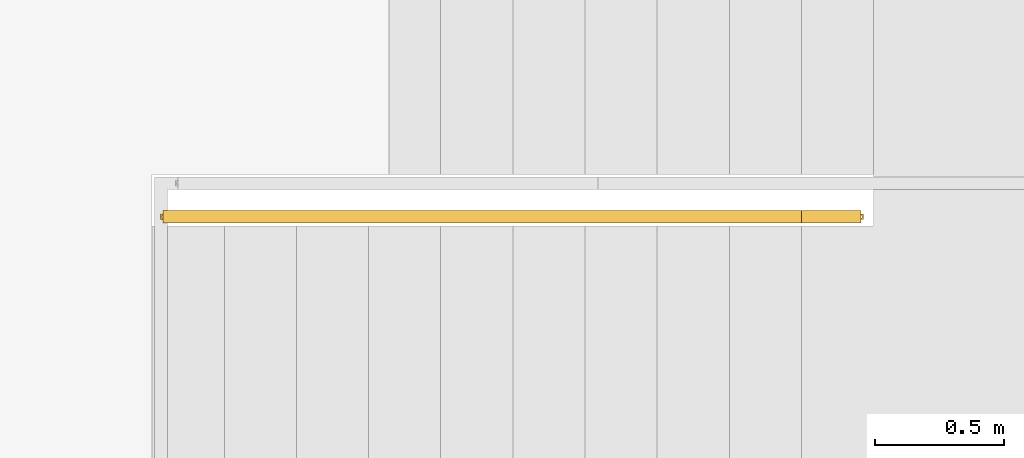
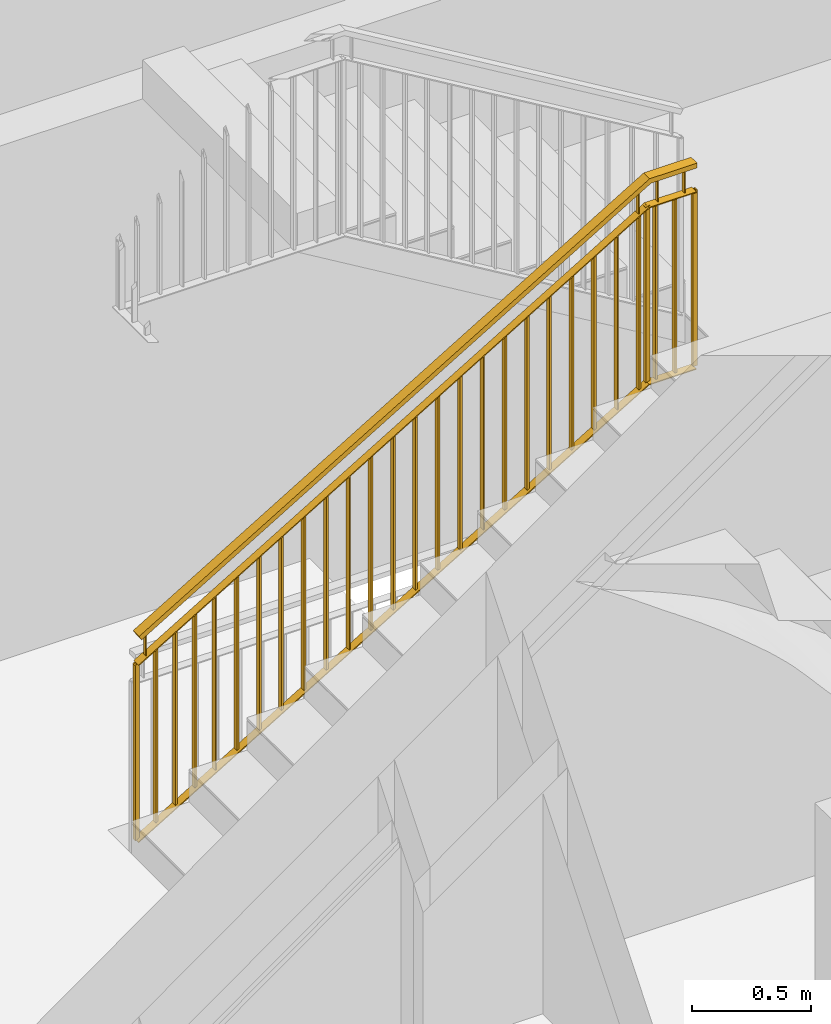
# One storey, part 4 of 61: 1 railing.
"""IFC2X3 building model written with IfcOpenShell, lengths in millimetres."""

import ifcopenshell
import ifcopenshell.guid

model = None  # the IFC model being written
_history = None  # IfcOwnerHistory: only IFC2X3 demands one
_inside = {}  # id of a spatial element -> (the spatial element, [elements in it])
_under = {}  # id of a project, library or spatial element -> (it, [spatial elements below it])
_declared = {}  # id of a project -> (the project, [libraries it declares])
_typed = {}  # id of a type object -> (the type object, [elements of that type])
_made_of = {}  # id of a material, layer set ... -> (it, [elements and type objects made of it])


def new_model(schema):
    """Start an empty IFC model of exactly this schema.

    Asked for "IFC4X3", IfcOpenShell would pick the latest addendum, in which some entities
    have other attributes; the version numbers below select the first issue.
    IFC2X3 requires an IfcOwnerHistory on every rooted entity: one is made here for all.
    """
    global model, _history
    if schema == "IFC4X3":
        model = ifcopenshell.file(schema_version=(4, 3, 0, 0))
    else:
        model = ifcopenshell.file(schema=schema)
    _inside.clear()
    _under.clear()
    _declared.clear()
    _typed.clear()
    _made_of.clear()
    _history = None
    if model.schema == "IFC2X3":
        org = make("IfcOrganization", Name="unknown")
        user = make(
            "IfcPersonAndOrganization",
            ThePerson=make("IfcPerson", FamilyName="unknown"),
            TheOrganization=org,
        )
        app = make(
            "IfcApplication",
            ApplicationDeveloper=org,
            Version="unknown",
            ApplicationFullName="unknown",
            ApplicationIdentifier="unknown",
        )
        _history = make(
            "IfcOwnerHistory",
            OwningUser=user,
            OwningApplication=app,
            ChangeAction="ADDED",
            CreationDate=0,
        )
    return model


def make(cls, **values):
    """One entity of the class cls with the attributes given. An attribute that is None is left unset."""
    return model.create_entity(
        cls, **{name: value for name, value in values.items() if value is not None}
    )


def entity(cls, *values):
    """Any entity or typed value of the class cls, its attributes in the order of the schema. None: left unset."""
    e = model.create_entity(cls)
    for i, value in enumerate(values):
        if value is not None:
            e[i] = value
    return e


def rooted(cls, **values):
    """An entity with a GlobalId (a new one), such as an element, a storey or a relation."""
    return make(cls, GlobalId=ifcopenshell.guid.new(), OwnerHistory=_history, **values)


def si_unit(unit_type, name, prefix=None):
    """IfcSIUnit, for example si_unit("LENGTHUNIT", "METRE", prefix="MILLI")."""
    return make("IfcSIUnit", UnitType=unit_type, Prefix=prefix, Name=name)


def converted_unit(unit_type, name, factor, base, dimensions=None, offset=None):
    """IfcConversionBasedUnit, such as the inch: factor (a typed value) times the base unit."""
    return make(
        "IfcConversionBasedUnit"
        if offset is None
        else "IfcConversionBasedUnitWithOffset",
        ConversionOffset=offset,
        Dimensions=None
        if dimensions is None
        else entity("IfcDimensionalExponents", *dimensions),
        UnitType=unit_type,
        Name=name,
        ConversionFactor=make(
            "IfcMeasureWithUnit", ValueComponent=factor, UnitComponent=base
        ),
    )


def derived_unit(unit_type, elements):
    """IfcDerivedUnit: a product of units, each with its exponent."""
    return make(
        "IfcDerivedUnit",
        Elements=[
            make("IfcDerivedUnitElement", Unit=unit, Exponent=power)
            for unit, power in elements
        ],
        UnitType=unit_type,
    )


def money_unit(currency):
    """IfcMonetaryUnit."""
    return make("IfcMonetaryUnit", Currency=currency)


def assignment(units):
    """IfcUnitAssignment: the units of a project."""
    return None if units is None else make("IfcUnitAssignment", Units=units)


def point(xyz):
    """IfcCartesianPoint."""
    return None if xyz is None else make("IfcCartesianPoint", Coordinates=xyz)


def direction(xyz):
    """IfcDirection."""
    return None if xyz is None else make("IfcDirection", DirectionRatios=xyz)


def frame(location, z_axis=None, x_axis=None):
    """IfcAxis2Placement3D, a coordinate frame: its origin and axes. An axis left out is left unset."""
    return make(
        "IfcAxis2Placement3D",
        Location=point(location),
        Axis=direction(z_axis),
        RefDirection=direction(x_axis),
    )


def origin_with_axes():
    """The frame at (0, 0, 0) with the z axis (0, 0, 1) and the x axis (1, 0, 0) written out."""
    return frame((0.0, 0.0, 0.0), z_axis=(0.0, 0.0, 1.0), x_axis=(1.0, 0.0, 0.0))


def place(relative_to, where):
    """IfcLocalPlacement: puts the frame where relative to a parent placement (None: the world)."""
    return make(
        "IfcLocalPlacement", PlacementRelTo=relative_to, RelativePlacement=where
    )


def context(
    kind, dimensions, precision=None, world=None, true_north=None, identifier=None
):
    """IfcGeometricRepresentationContext, for example the 3D "Model" context."""
    return make(
        "IfcGeometricRepresentationContext",
        ContextIdentifier=identifier,
        ContextType=kind,
        CoordinateSpaceDimension=dimensions,
        Precision=precision,
        WorldCoordinateSystem=world,
        TrueNorth=true_north,
    )


def subcontext(parent, identifier, kind, view, scale=None):
    """IfcGeometricRepresentationSubContext, for example "Body" below "Model"."""
    return make(
        "IfcGeometricRepresentationSubContext",
        ContextIdentifier=identifier,
        ContextType=kind,
        ParentContext=parent,
        TargetScale=scale,
        TargetView=view,
    )


def project(units=None, contexts=None):
    """IfcProject with its units and contexts."""
    return rooted(
        "IfcProject",
        Name="project",
        RepresentationContexts=contexts,
        UnitsInContext=assignment(units),
    )


def spatial(cls, under=None, at=None, **own):
    """A site, building, storey or space (cls), placed at a placement, below another one or the project."""
    s = rooted(cls, ObjectPlacement=at, **own)
    if under is not None:
        _under.setdefault(under.id(), (under, []))[1].append(s)
    return s


def faces_of(points, faces, orient=None, outer=None):
    """IfcFace entities. A face is a list of loops; a loop is a list of indices into points, from 0.

    orient and outer hold one flag for each loop. By default every Orientation is true, the
    first loop of a face is its IfcFaceOuterBound and the others are IfcFaceBound.
    """
    made = []
    for i, loops in enumerate(faces):
        bounds = []
        for j, loop in enumerate(loops):
            is_outer = j == 0 if outer is None else outer[i][j]
            bounds.append(
                make(
                    "IfcFaceOuterBound" if is_outer else "IfcFaceBound",
                    Bound=make("IfcPolyLoop", Polygon=[points[k] for k in loop]),
                    Orientation=True if orient is None else orient[i][j],
                )
            )
        made.append(make("IfcFace", Bounds=bounds))
    return made


def faceted_brep(points, faces, orient=None, outer=None, voids=None):
    """IfcFacetedBrep: a solid bounded by flat faces; with voids (closed shells), ...WithVoids."""
    shared = [point(p) for p in points]
    hull = make("IfcClosedShell", CfsFaces=faces_of(shared, faces, orient, outer))
    if voids is None:
        return make("IfcFacetedBrep", Outer=hull)
    return make(
        "IfcFacetedBrepWithVoids",
        Outer=hull,
        Voids=[
            make(cls, CfsFaces=faces_of(shared, fs, o, b)) for cls, fs, o, b in voids
        ],
    )


def shape(context_of_items, identifier, shape_type, items):
    """IfcShapeRepresentation: the items that make up one representation, for example the "Body"."""
    return make(
        "IfcShapeRepresentation",
        ContextOfItems=context_of_items,
        RepresentationIdentifier=identifier,
        RepresentationType=shape_type,
        Items=items,
    )


def material(Name=None, Category=None):
    """IfcMaterial."""
    return make("IfcMaterial", Name=Name, Category=Category)


def material_list(materials):
    """IfcMaterialList."""
    return make("IfcMaterialList", Materials=materials)


def made_of(thing, what):
    """Note that an element or type object is made of a material, layer set ...; save() writes the relation."""
    if what is not None:
        _made_of.setdefault(what.id(), (what, []))[1].append(thing)
    return thing


def type_object(cls, material=None, **own):
    """A type object (cls), such as IfcWallType, which elements share."""
    return made_of(rooted(cls, **own), material)


def element(
    cls,
    number,
    at=None,
    inside=None,
    cuts=None,
    type_object=None,
    material=None,
    context=None,
    identifier="Body",
    shape_type=None,
    held_by="IfcProductDefinitionShape",
    body=None,
    shapes=None,
    **own,
):
    """One element of the class cls, such as IfcWall. Its Tag is "e" and its number.

    at: its placement. inside: the storey or other place that contains it. cuts: it is an
    opening in that element (IfcRelVoidsElement). A single representation is given by context,
    identifier, shape_type and body (its items); several are given by shapes. held_by: the class
    of the entity that holds the representations. save() writes the other relations.
    """
    e = rooted(cls, Tag="e%d" % number, ObjectPlacement=at, **own)
    if body is not None:
        shapes = [shape(context, identifier, shape_type, body)]
    if shapes is not None:
        e.Representation = make(held_by, Representations=shapes)
    if inside is not None:
        _inside.setdefault(inside.id(), (inside, []))[1].append(e)
    if cuts is not None:
        rooted(
            "IfcRelVoidsElement", RelatingBuildingElement=cuts, RelatedOpeningElement=e
        )
    if type_object is not None:
        _typed.setdefault(type_object.id(), (type_object, []))[1].append(e)
    return made_of(e, material)


def aggregate(whole, parts):
    """IfcRelAggregates: a whole, such as a stair, and the parts it consists of."""
    return rooted("IfcRelAggregates", RelatingObject=whole, RelatedObjects=parts)


def save(model, path):
    """Write the relations noted so far, then the file.

    IfcRelAggregates (storeys below a building ...), IfcRelContainedInSpatialStructure (elements
    in a storey), IfcRelDefinesByType, IfcRelAssociatesMaterial and IfcRelDeclares: one each for
    every whole, place, type object, material and project.
    """
    for whole, parts in _under.values():
        aggregate(whole, parts)
    for where, things in _inside.values():
        rooted(
            "IfcRelContainedInSpatialStructure",
            RelatedElements=things,
            RelatingStructure=where,
        )
    for kind, things in _typed.values():
        rooted("IfcRelDefinesByType", RelatedObjects=things, RelatingType=kind)
    for what, things in _made_of.values():
        rooted("IfcRelAssociatesMaterial", RelatedObjects=things, RelatingMaterial=what)
    for by, libraries in _declared.values():
        rooted("IfcRelDeclares", RelatingContext=by, RelatedDefinitions=libraries)
    model.write(path)


model = new_model("IFC2X3")

# Units and contexts
model_context = context("Model", 3, precision=0.01, world=origin_with_axes(), true_north=direction((0.34421633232, 0.938890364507)))
body_context = subcontext(model_context, "Body", "Model", "MODEL_VIEW")
ifc_project = project(units=[si_unit("LENGTHUNIT", "METRE", prefix="MILLI"), si_unit("AREAUNIT", "SQUARE_METRE"), si_unit("VOLUMEUNIT", "CUBIC_METRE"), converted_unit("PLANEANGLEUNIT", "DEGREE", entity("IfcPlaneAngleMeasure", 0.0174532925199), si_unit("PLANEANGLEUNIT", "RADIAN"), dimensions=[0, 0, 0, 0, 0, 0, 0]), si_unit("SOLIDANGLEUNIT", "STERADIAN"), money_unit("USD"), converted_unit("TIMEUNIT", "Year", entity("IfcTimeMeasure", 31556926.0), si_unit("TIMEUNIT", "SECOND"), dimensions=[0, 0, 1, 0, 0, 0, 0]), si_unit("MASSUNIT", "GRAM", prefix="KILO"), si_unit("THERMODYNAMICTEMPERATUREUNIT", "DEGREE_CELSIUS"), si_unit("LUMINOUSINTENSITYUNIT", "LUMEN"), si_unit("ENERGYUNIT", "JOULE", prefix="MEGA"), derived_unit("THERMALCONDUCTANCEUNIT", [(si_unit("POWERUNIT", "WATT"), 1), (si_unit("LENGTHUNIT", "METRE"), -1), (si_unit("THERMODYNAMICTEMPERATUREUNIT", "KELVIN"), -1)]), derived_unit("SPECIFICHEATCAPACITYUNIT", [(si_unit("ENERGYUNIT", "JOULE"), 1), (si_unit("MASSUNIT", "GRAM", prefix="KILO"), -1), (si_unit("THERMODYNAMICTEMPERATUREUNIT", "KELVIN"), -1)]), derived_unit("MASSDENSITYUNIT", [(si_unit("MASSUNIT", "GRAM", prefix="KILO"), 1), (si_unit("VOLUMEUNIT", "CUBIC_METRE"), -1)])], contexts=[model_context])

# Site, building, storey
site_placement = place(None, origin_with_axes())
site = spatial("IfcSite", under=ifc_project, at=site_placement, Name="USTRONIE MORSKIE", CompositionType="ELEMENT")
building_placement = place(site_placement, origin_with_axes())
building = spatial("IfcBuilding", under=site, at=building_placement, Name="Budynek", CompositionType="ELEMENT")
storey_placement = place(building_placement, frame((0.0, 0.0, 13000.0), z_axis=(0.0, 0.0, 1.0), x_axis=(1.0, 0.0, 0.0)))
storey = spatial("IfcBuildingStorey", under=building, at=storey_placement, Name="PIĘTRO 4", CompositionType="ELEMENT", Elevation=13000.0)

# Railing
ifc_material_1 = material(Name="Stal konstrukcyjna")
ifc_material_2 = material(Name="Stal nierdzewna")
ifc_material_list = material_list([ifc_material_1, ifc_material_1, ifc_material_1, ifc_material_2, ifc_material_2, ifc_material_2, ifc_material_1, ifc_material_1, ifc_material_2, ifc_material_2, ifc_material_2, ifc_material_1, ifc_material_1, ifc_material_1, ifc_material_1, ifc_material_1, ifc_material_1, ifc_material_1, ifc_material_1, ifc_material_1, ifc_material_1, ifc_material_1, ifc_material_1, ifc_material_1, ifc_material_1, ifc_material_1, ifc_material_1, ifc_material_1, ifc_material_1, ifc_material_1, ifc_material_1, ifc_material_1, ifc_material_1, ifc_material_1])
railing_type = type_object("IfcRailingType", Name="Typ balustrady", PredefinedType="NOTDEFINED")
railing_placement = place(storey_placement, frame((364247.920919, 728301.199022, 193.0047645), z_axis=(0.0, 0.0, 1.0), x_axis=(1.0, 0.0, 0.0)))
element("IfcRailing", 1, at=railing_placement, inside=storey, type_object=railing_type, material=ifc_material_list, Name="BL1", PredefinedType="NOTDEFINED", context=body_context, shape_type="Brep", body=[
    faceted_brep([(-60.0, 44.9999999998, 1330.52464727), (-60.0, 24.9999999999, 1330.52464727), (-60.0, 24.9999999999, 2230.52464727), (-60.0, 44.9999999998, 2230.52464727), (-40.0, 44.9999999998, 1330.52464727), (-40.0, 24.9999999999, 1330.52464727), (-55.0, 39.9999999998, 1330.52464727), (-55.0, 29.9999999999, 1330.52464727), (-45.0, 29.9999999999, 1330.52464727), (-45.0, 39.9999999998, 1330.52464727), (-40.0, 24.9999999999, 2230.52464727), (-40.0, 44.9999999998, 2230.52464727), (-55.0, 39.9999999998, 2230.52464727), (-45.0, 39.9999999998, 2230.52464727), (-45.0, 29.9999999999, 2230.52464727), (-55.0, 29.9999999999, 2230.52464727)], [[[0, 1, 2, 3]], [[0, 4, 5, 1], [6, 7, 8, 9]], [[1, 5, 10, 2]], [[3, 2, 10, 11], [12, 13, 14, 15]], [[4, 0, 3, 11]], [[5, 4, 11, 10]], [[7, 6, 12, 15]], [[8, 7, 15, 14]], [[9, 8, 14, 13]], [[6, 9, 13, 12]]]),
    faceted_brep([(-290.0, 45.0, 1327.76396265), (-290.0, 25.0, 1327.76396265), (-290.0, 25.0, 2227.76396265), (-290.0, 45.0, 2227.76396265), (-270.0, 45.0, 1333.28533188), (-270.0, 25.0, 1333.28533188), (-285.0, 40.0, 1329.14430496), (-285.0, 30.0, 1329.14430496), (-275.0, 30.0, 1331.90498957), (-275.0, 40.0, 1331.90498957), (-270.0, 25.0, 2233.28533188), (-270.0, 45.0, 2233.28533188), (-285.0, 40.0, 2229.14430496), (-275.0, 40.0, 2231.90498957), (-275.0, 30.0, 2231.90498957), (-285.0, 30.0, 2229.14430496)], [[[0, 1, 2, 3]], [[0, 4, 5, 1], [6, 7, 8, 9]], [[1, 5, 10, 2]], [[3, 2, 10, 11], [12, 13, 14, 15]], [[4, 0, 3, 11]], [[5, 4, 11, 10]], [[7, 6, 12, 15]], [[8, 7, 15, 14]], [[9, 8, 14, 13]], [[6, 9, 13, 12]]]),
    faceted_brep([(-2767.0816594, 45.0000000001, -155.976890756), (-2767.0816594, 25.0000000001, -155.976890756), (-2767.0816594, 25.0000000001, 744.023109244), (-2767.0816594, 45.0000000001, 744.023109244), (-2747.0816594, 45.0000000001, -144.023109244), (-2747.0816594, 25.0000000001, -144.023109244), (-2762.0816594, 40.0000000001, -152.988445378), (-2762.0816594, 30.0000000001, -152.988445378), (-2752.0816594, 30.0000000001, -147.011554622), (-2752.0816594, 40.0000000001, -147.011554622), (-2747.0816594, 25.0000000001, 755.976890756), (-2747.0816594, 45.0000000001, 755.976890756), (-2762.0816594, 40.0000000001, 747.011554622), (-2752.0816594, 40.0000000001, 752.988445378), (-2752.0816594, 30.0000000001, 752.988445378), (-2762.0816594, 30.0000000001, 747.011554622)], [[[0, 1, 2, 3]], [[0, 4, 5, 1], [6, 7, 8, 9]], [[1, 5, 10, 2]], [[3, 2, 10, 11], [12, 13, 14, 15]], [[4, 0, 3, 11]], [[5, 4, 11, 10]], [[7, 6, 12, 15]], [[8, 7, 15, 14]], [[9, 8, 14, 13]], [[6, 9, 13, 12]]]),
    faceted_brep([(-50.0, 59.9999999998, 2380.52464727), (-50.0, 59.9999999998, 2355.52464727), (-273.098288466, 59.9999999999, 2355.52464727), (-280.0, 59.9999999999, 2380.52464727), (-50.0, 9.99999999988, 2380.52464727), (-50.0, 9.99999999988, 2355.52464727), (-50.0, 24.9999999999, 2355.52464727), (-50.0, 24.9999999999, 2360.52464727), (-50.0, 44.9999999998, 2360.52464727), (-50.0, 44.9999999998, 2355.52464727), (-273.098288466, 45.0, 2355.52464727), (-274.478630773, 45.0, 2360.52464727), (-274.478630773, 25.0, 2360.52464727), (-273.098288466, 25.0, 2355.52464727), (-273.098288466, 9.99999999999, 2355.52464727), (-280.0, 9.99999999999, 2380.52464727)], [[[0, 1, 2, 3]], [[0, 4, 5, 6, 7, 8, 9, 1]], [[1, 9, 10, 2]], [[3, 2, 10, 11, 12, 13, 14, 15]], [[4, 0, 3, 15]], [[5, 4, 15, 14]], [[6, 5, 14, 13]], [[7, 6, 13, 12]], [[8, 7, 12, 11]], [[9, 8, 11, 10]]]),
    faceted_brep([(-50.0, 44.9999999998, 2355.52464727), (-50.0, 24.9999999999, 2355.52464727), (-273.098288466, 25.0, 2355.52464727), (-273.098288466, 45.0, 2355.52464727), (-50.0, 44.9999999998, 2360.52464727), (-50.0, 24.9999999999, 2360.52464727), (-274.478630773, 25.0, 2360.52464727), (-274.478630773, 45.0, 2360.52464727)], [[[0, 1, 2, 3]], [[0, 4, 5, 1]], [[1, 5, 6, 2]], [[3, 2, 6, 7]], [[4, 0, 3, 7]], [[5, 4, 7, 6]]]),
    faceted_brep([(-102.5, 44.9999999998, 2235.52464727), (-102.5, 24.9999999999, 2235.52464727), (-102.5, 24.9999999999, 2355.52464727), (-102.5, 44.9999999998, 2355.52464727), (-97.5, 44.9999999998, 2235.52464727), (-97.5, 24.9999999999, 2235.52464727), (-97.5, 24.9999999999, 2355.52464727), (-97.5, 44.9999999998, 2355.52464727)], [[[0, 1, 2, 3]], [[0, 4, 5, 1]], [[1, 5, 6, 2]], [[3, 2, 6, 7]], [[4, 0, 3, 7]], [[5, 4, 7, 6]]]),
    faceted_brep([(-232.5, 45.0, 2235.52464727), (-232.5, 25.0, 2235.52464727), (-232.5, 25.0, 2355.52464727), (-232.5, 45.0, 2355.52464727), (-227.5, 45.0, 2235.52464727), (-227.5, 25.0, 2235.52464727), (-227.5, 25.0, 2355.52464727), (-227.5, 45.0, 2355.52464727)], [[[0, 1, 2, 3]], [[0, 4, 5, 1]], [[1, 5, 6, 2]], [[3, 2, 6, 7]], [[4, 0, 3, 7]], [[5, 4, 7, 6]]]),
    faceted_brep([(-50.0, 54.9999999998, 2230.52464727), (-50.0, 54.9999999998, 2225.52464727), (-278.619657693, 54.9999999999, 2225.52464727), (-280.0, 54.9999999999, 2230.52464727), (-50.0, 14.9999999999, 2230.52464727), (-50.0, 14.9999999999, 2225.52464727), (-278.619657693, 15.0, 2225.52464727), (-280.0, 15.0, 2230.52464727)], [[[0, 1, 2, 3]], [[0, 4, 5, 1]], [[1, 5, 6, 2]], [[3, 2, 6, 7]], [[4, 0, 3, 7]], [[5, 4, 7, 6]]]),
    faceted_brep([(-50.0, 54.9999999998, 1323.02464727), (-50.0, 54.9999999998, 1318.02464727), (-279.309828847, 54.9999999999, 1318.02464727), (-280.690171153, 54.9999999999, 1323.02464727), (-50.0, 14.9999999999, 1323.02464727), (-50.0, 14.9999999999, 1318.02464727), (-279.309828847, 15.0, 1318.02464727), (-280.690171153, 15.0, 1323.02464727)], [[[0, 1, 2, 3]], [[0, 4, 5, 1]], [[1, 5, 6, 2]], [[3, 2, 6, 7]], [[4, 0, 3, 7]], [[5, 4, 7, 6]]]),
    faceted_brep([(-149.635207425, 47.4999999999, 1330.52464727), (-149.635207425, 22.4999999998, 1330.52464727), (-149.635207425, 22.4999999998, 2220.52464727), (-149.635207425, 47.4999999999, 2220.52464727), (-139.635207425, 47.4999999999, 1330.52464727), (-139.635207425, 22.4999999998, 1330.52464727), (-139.635207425, 22.4999999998, 2220.52464727), (-139.635207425, 47.4999999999, 2220.52464727)], [[[0, 1, 2, 3]], [[0, 4, 5, 1]], [[1, 5, 6, 2]], [[3, 2, 6, 7]], [[4, 0, 3, 7]], [[5, 4, 7, 6]]]),
    faceted_brep([(-244.270414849, 47.5, 1330.52464727), (-244.270414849, 22.4999999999, 1330.52464727), (-244.270414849, 22.4999999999, 2220.52464727), (-244.270414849, 47.5, 2220.52464727), (-234.270414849, 47.5, 1330.52464727), (-234.270414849, 22.4999999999, 1330.52464727), (-234.270414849, 22.4999999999, 2220.52464727), (-234.270414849, 47.5, 2220.52464727)], [[[0, 1, 2, 3]], [[0, 4, 5, 1]], [[1, 5, 6, 2]], [[3, 2, 6, 7]], [[4, 0, 3, 7]], [[5, 4, 7, 6]]]),
    faceted_brep([(-280.0, 59.9999999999, 2380.52464727), (-273.098288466, 59.9999999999, 2355.52464727), (-2744.25574773, 60.0000000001, 878.540829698), (-2757.0816594, 60.0000000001, 900.0), (-280.0, 9.99999999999, 2380.52464727), (-273.098288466, 9.99999999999, 2355.52464727), (-273.098288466, 25.0, 2355.52464727), (-274.478630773, 25.0, 2360.52464727), (-274.478630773, 45.0, 2360.52464727), (-273.098288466, 45.0, 2355.52464727), (-2744.25574773, 45.0000000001, 878.540829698), (-2746.82093007, 45.0000000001, 882.832663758), (-2746.82093007, 25.0000000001, 882.832663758), (-2744.25574773, 25.0000000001, 878.540829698), (-2744.25574773, 10.0000000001, 878.540829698), (-2757.0816594, 10.0000000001, 900.0)], [[[0, 1, 2, 3]], [[0, 4, 5, 6, 7, 8, 9, 1]], [[1, 9, 10, 2]], [[3, 2, 10, 11, 12, 13, 14, 15]], [[4, 0, 3, 15]], [[5, 4, 15, 14]], [[6, 5, 14, 13]], [[7, 6, 13, 12]], [[8, 7, 12, 11]], [[9, 8, 11, 10]]]),
    faceted_brep([(-273.098288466, 45.0, 2355.52464727), (-273.098288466, 25.0, 2355.52464727), (-2744.25574773, 25.0000000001, 878.540829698), (-2744.25574773, 45.0000000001, 878.540829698), (-274.478630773, 45.0, 2360.52464727), (-274.478630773, 25.0, 2360.52464727), (-2746.82093007, 25.0000000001, 882.832663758), (-2746.82093007, 45.0000000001, 882.832663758)], [[[0, 1, 2, 3]], [[0, 4, 5, 1]], [[1, 5, 6, 2]], [[3, 2, 6, 7]], [[4, 0, 3, 7]], [[5, 4, 7, 6]]]),
    faceted_brep([(-325.418340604, 45.0, 2205.74774635), (-325.418340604, 25.0, 2205.74774635), (-325.418340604, 25.0, 2325.74774635), (-325.418340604, 45.0, 2325.74774635), (-320.418340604, 45.0, 2205.74774635), (-320.418340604, 25.0, 2205.74774635), (-320.418340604, 25.0, 2327.24196904), (-322.918340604, 25.0, 2327.24196904), (-322.918340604, 45.0, 2327.24196904), (-320.418340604, 45.0, 2327.24196904)], [[[0, 1, 2, 3]], [[0, 4, 5, 1]], [[1, 5, 6, 7, 2]], [[7, 8, 3, 2]], [[4, 0, 3, 8, 9]], [[5, 4, 9, 6]], [[7, 6, 9, 8]]]),
    faceted_brep([(-2716.66331879, 45.0000000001, 776.526745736), (-2716.66331879, 25.0000000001, 776.526745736), (-2716.66331879, 25.0000000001, 896.526745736), (-2716.66331879, 45.0000000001, 896.526745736), (-2711.66331879, 45.0000000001, 776.526745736), (-2711.66331879, 25.0000000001, 776.526745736), (-2711.66331879, 25.0000000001, 898.020968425), (-2714.16331879, 25.0000000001, 898.020968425), (-2714.16331879, 45.0000000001, 898.020968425), (-2711.66331879, 45.0000000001, 898.020968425)], [[[0, 1, 2, 3]], [[0, 4, 5, 1]], [[1, 5, 6, 7, 2]], [[7, 8, 3, 2]], [[4, 0, 3, 8, 9]], [[5, 4, 9, 6]], [[7, 6, 9, 8]]]),
    faceted_brep([(-280.0, 54.9999999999, 2230.52464727), (-278.619657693, 54.9999999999, 2225.52464727), (-2754.51647706, 55.0000000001, 745.70816594), (-2757.0816594, 55.0000000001, 750.0), (-280.0, 15.0, 2230.52464727), (-278.619657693, 15.0, 2225.52464727), (-2754.51647706, 15.0000000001, 745.70816594), (-2757.0816594, 15.0000000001, 750.0)], [[[0, 1, 2, 3]], [[0, 4, 5, 1]], [[1, 5, 6, 2]], [[3, 2, 6, 7]], [[4, 0, 3, 7]], [[5, 4, 7, 6]]]),
    faceted_brep([(-280.690171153, 54.9999999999, 1323.02464727), (-279.309828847, 54.9999999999, 1318.02464727), (-2755.79906823, 55.0000000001, -162.14591703), (-2758.36425056, 55.0000000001, -157.85408297), (-280.690171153, 15.0, 1323.02464727), (-279.309828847, 15.0, 1318.02464727), (-2755.79906823, 15.0000000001, -162.14591703), (-2758.36425056, 15.0000000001, -157.85408297)], [[[0, 1, 2, 3]], [[0, 4, 5, 1]], [[1, 5, 6, 2]], [[3, 2, 6, 7]], [[4, 0, 3, 7]], [[5, 4, 7, 6]]]),
    faceted_brep([(-325.207496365, 47.5, 1303.50462055), (-325.207496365, 22.4999999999, 1303.50462055), (-325.207496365, 22.4999999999, 2193.50462055), (-325.207496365, 47.5, 2193.50462055), (-315.207496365, 47.5, 1309.48151131), (-315.207496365, 22.4999999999, 1309.48151131), (-315.207496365, 22.4999999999, 2199.48151131), (-315.207496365, 47.5, 2199.48151131)], [[[0, 1, 2, 3]], [[0, 4, 5, 1]], [[1, 5, 6, 2]], [[3, 2, 6, 7]], [[4, 0, 3, 7]], [[5, 4, 7, 6]]]),
    faceted_brep([(-431.040829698, 50.0, 1240.24919338), (-431.040829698, 20.0, 1240.24919338), (-431.040829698, 20.0, 2130.24919338), (-431.040829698, 50.0, 2130.24919338), (-426.040829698, 50.0, 1243.23763876), (-426.040829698, 20.0, 1243.23763876), (-426.040829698, 20.0, 2133.23763876), (-426.040829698, 50.0, 2133.23763876)], [[[0, 1, 2, 3]], [[0, 4, 5, 1]], [[1, 5, 6, 2]], [[3, 2, 6, 7]], [[4, 0, 3, 7]], [[5, 4, 7, 6]]]),
    faceted_brep([(-541.874163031, 47.5, 1174.00532083), (-541.874163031, 22.4999999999, 1174.00532083), (-541.874163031, 22.4999999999, 2064.00532083), (-541.874163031, 47.5, 2064.00532083), (-531.874163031, 47.5, 1179.98221159), (-531.874163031, 22.4999999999, 1179.98221159), (-531.874163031, 22.4999999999, 2069.98221159), (-531.874163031, 47.5, 2069.98221159)], [[[0, 1, 2, 3]], [[0, 4, 5, 1]], [[1, 5, 6, 2]], [[3, 2, 6, 7]], [[4, 0, 3, 7]], [[5, 4, 7, 6]]]),
    faceted_brep([(-650.207496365, 47.5, 1109.25567097), (-650.207496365, 22.4999999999, 1109.25567097), (-650.207496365, 22.4999999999, 1999.25567097), (-650.207496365, 47.5, 1999.25567097), (-640.207496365, 47.5, 1115.23256173), (-640.207496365, 22.4999999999, 1115.23256173), (-640.207496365, 22.4999999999, 2005.23256173), (-640.207496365, 47.5, 2005.23256173)], [[[0, 1, 2, 3]], [[0, 4, 5, 1]], [[1, 5, 6, 2]], [[3, 2, 6, 7]], [[4, 0, 3, 7]], [[5, 4, 7, 6]]]),
    faceted_brep([(-758.540829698, 47.5, 1044.50602111), (-758.540829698, 22.4999999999, 1044.50602111), (-758.540829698, 22.4999999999, 1934.50602111), (-758.540829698, 47.5, 1934.50602111), (-748.540829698, 47.5, 1050.48291187), (-748.540829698, 22.4999999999, 1050.48291187), (-748.540829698, 22.4999999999, 1940.48291187), (-748.540829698, 47.5, 1940.48291187)], [[[0, 1, 2, 3]], [[0, 4, 5, 1]], [[1, 5, 6, 2]], [[3, 2, 6, 7]], [[4, 0, 3, 7]], [[5, 4, 7, 6]]]),
    faceted_brep([(-866.874163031, 47.5, 979.756371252), (-866.874163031, 22.4999999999, 979.756371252), (-866.874163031, 22.4999999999, 1869.75637125), (-866.874163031, 47.5, 1869.75637125), (-856.874163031, 47.5, 985.733262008), (-856.874163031, 22.4999999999, 985.733262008), (-856.874163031, 22.4999999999, 1875.73326201), (-856.874163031, 47.5, 1875.73326201)], [[[0, 1, 2, 3]], [[0, 4, 5, 1]], [[1, 5, 6, 2]], [[3, 2, 6, 7]], [[4, 0, 3, 7]], [[5, 4, 7, 6]]]),
    faceted_brep([(-975.207496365, 47.5, 915.006721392), (-975.207496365, 22.4999999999, 915.006721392), (-975.207496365, 22.4999999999, 1805.00672139), (-975.207496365, 47.5, 1805.00672139), (-965.207496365, 47.5, 920.983612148), (-965.207496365, 22.4999999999, 920.983612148), (-965.207496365, 22.4999999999, 1810.98361215), (-965.207496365, 47.5, 1810.98361215)], [[[0, 1, 2, 3]], [[0, 4, 5, 1]], [[1, 5, 6, 2]], [[3, 2, 6, 7]], [[4, 0, 3, 7]], [[5, 4, 7, 6]]]),
    faceted_brep([(-1081.0408297, 50.0, 851.751294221), (-1081.0408297, 20.0, 851.751294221), (-1081.0408297, 20.0, 1741.75129422), (-1081.0408297, 50.0, 1741.75129422), (-1076.0408297, 50.0, 854.739739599), (-1076.0408297, 20.0, 854.739739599), (-1076.0408297, 20.0, 1744.7397396), (-1076.0408297, 50.0, 1744.7397396)], [[[0, 1, 2, 3]], [[0, 4, 5, 1]], [[1, 5, 6, 2]], [[3, 2, 6, 7]], [[4, 0, 3, 7]], [[5, 4, 7, 6]]]),
    faceted_brep([(-1191.87416303, 47.5, 785.507421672), (-1191.87416303, 22.4999999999, 785.507421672), (-1191.87416303, 22.4999999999, 1675.50742167), (-1191.87416303, 47.5, 1675.50742167), (-1181.87416303, 47.5, 791.484312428), (-1181.87416303, 22.4999999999, 791.484312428), (-1181.87416303, 22.4999999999, 1681.48431243), (-1181.87416303, 47.5, 1681.48431243)], [[[0, 1, 2, 3]], [[0, 4, 5, 1]], [[1, 5, 6, 2]], [[3, 2, 6, 7]], [[4, 0, 3, 7]], [[5, 4, 7, 6]]]),
    faceted_brep([(-1300.20749636, 47.5, 720.757771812), (-1300.20749636, 22.4999999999, 720.757771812), (-1300.20749636, 22.4999999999, 1610.75777181), (-1300.20749636, 47.5, 1610.75777181), (-1290.20749636, 47.5, 726.734662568), (-1290.20749636, 22.4999999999, 726.734662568), (-1290.20749636, 22.4999999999, 1616.73466257), (-1290.20749636, 47.5, 1616.73466257)], [[[0, 1, 2, 3]], [[0, 4, 5, 1]], [[1, 5, 6, 2]], [[3, 2, 6, 7]], [[4, 0, 3, 7]], [[5, 4, 7, 6]]]),
    faceted_brep([(-1408.5408297, 47.5, 656.008121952), (-1408.5408297, 22.4999999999, 656.008121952), (-1408.5408297, 22.4999999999, 1546.00812195), (-1408.5408297, 47.5, 1546.00812195), (-1398.5408297, 47.5, 661.985012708), (-1398.5408297, 22.4999999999, 661.985012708), (-1398.5408297, 22.4999999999, 1551.98501271), (-1398.5408297, 47.5, 1551.98501271)], [[[0, 1, 2, 3]], [[0, 4, 5, 1]], [[1, 5, 6, 2]], [[3, 2, 6, 7]], [[4, 0, 3, 7]], [[5, 4, 7, 6]]]),
    faceted_brep([(-1516.87416303, 47.5, 591.258472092), (-1516.87416303, 22.4999999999, 591.258472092), (-1516.87416303, 22.4999999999, 1481.25847209), (-1516.87416303, 47.5, 1481.25847209), (-1506.87416303, 47.5, 597.235362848), (-1506.87416303, 22.4999999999, 597.235362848), (-1506.87416303, 22.4999999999, 1487.23536285), (-1506.87416303, 47.5, 1487.23536285)], [[[0, 1, 2, 3]], [[0, 4, 5, 1]], [[1, 5, 6, 2]], [[3, 2, 6, 7]], [[4, 0, 3, 7]], [[5, 4, 7, 6]]]),
    faceted_brep([(-1625.20749636, 47.5000000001, 526.508822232), (-1625.20749636, 22.5, 526.508822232), (-1625.20749636, 22.5, 1416.50882223), (-1625.20749636, 47.5000000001, 1416.50882223), (-1615.20749636, 47.5000000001, 532.485712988), (-1615.20749636, 22.5, 532.485712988), (-1615.20749636, 22.5, 1422.48571299), (-1615.20749636, 47.5000000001, 1422.48571299)], [[[0, 1, 2, 3]], [[0, 4, 5, 1]], [[1, 5, 6, 2]], [[3, 2, 6, 7]], [[4, 0, 3, 7]], [[5, 4, 7, 6]]]),
    faceted_brep([(-1731.0408297, 50.0000000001, 463.253395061), (-1731.0408297, 20.0000000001, 463.253395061), (-1731.0408297, 20.0000000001, 1353.25339506), (-1731.0408297, 50.0000000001, 1353.25339506), (-1726.0408297, 50.0000000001, 466.241840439), (-1726.0408297, 20.0000000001, 466.241840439), (-1726.0408297, 20.0000000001, 1356.24184044), (-1726.0408297, 50.0000000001, 1356.24184044)], [[[0, 1, 2, 3]], [[0, 4, 5, 1]], [[1, 5, 6, 2]], [[3, 2, 6, 7]], [[4, 0, 3, 7]], [[5, 4, 7, 6]]]),
    faceted_brep([(-1841.87416303, 47.5000000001, 397.009522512), (-1841.87416303, 22.5, 397.009522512), (-1841.87416303, 22.5, 1287.00952251), (-1841.87416303, 47.5000000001, 1287.00952251), (-1831.87416303, 47.5000000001, 402.986413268), (-1831.87416303, 22.5, 402.986413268), (-1831.87416303, 22.5, 1292.98641327), (-1831.87416303, 47.5000000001, 1292.98641327)], [[[0, 1, 2, 3]], [[0, 4, 5, 1]], [[1, 5, 6, 2]], [[3, 2, 6, 7]], [[4, 0, 3, 7]], [[5, 4, 7, 6]]]),
    faceted_brep([(-1950.20749636, 47.5000000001, 332.259872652), (-1950.20749636, 22.5, 332.259872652), (-1950.20749636, 22.5, 1222.25987265), (-1950.20749636, 47.5000000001, 1222.25987265), (-1940.20749636, 47.5000000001, 338.236763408), (-1940.20749636, 22.5, 338.236763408), (-1940.20749636, 22.5, 1228.23676341), (-1940.20749636, 47.5000000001, 1228.23676341)], [[[0, 1, 2, 3]], [[0, 4, 5, 1]], [[1, 5, 6, 2]], [[3, 2, 6, 7]], [[4, 0, 3, 7]], [[5, 4, 7, 6]]]),
    faceted_brep([(-2058.5408297, 47.5000000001, 267.510222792), (-2058.5408297, 22.5, 267.510222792), (-2058.5408297, 22.5, 1157.51022279), (-2058.5408297, 47.5000000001, 1157.51022279), (-2048.5408297, 47.5000000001, 273.487113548), (-2048.5408297, 22.5, 273.487113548), (-2048.5408297, 22.5, 1163.48711355), (-2048.5408297, 47.5000000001, 1163.48711355)], [[[0, 1, 2, 3]], [[0, 4, 5, 1]], [[1, 5, 6, 2]], [[3, 2, 6, 7]], [[4, 0, 3, 7]], [[5, 4, 7, 6]]]),
    faceted_brep([(-2166.87416303, 47.5000000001, 202.760572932), (-2166.87416303, 22.5, 202.760572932), (-2166.87416303, 22.5, 1092.76057293), (-2166.87416303, 47.5000000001, 1092.76057293), (-2156.87416303, 47.5000000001, 208.737463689), (-2156.87416303, 22.5, 208.737463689), (-2156.87416303, 22.5, 1098.73746369), (-2156.87416303, 47.5000000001, 1098.73746369)], [[[0, 1, 2, 3]], [[0, 4, 5, 1]], [[1, 5, 6, 2]], [[3, 2, 6, 7]], [[4, 0, 3, 7]], [[5, 4, 7, 6]]]),
    faceted_brep([(-2275.20749636, 47.5000000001, 138.010923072), (-2275.20749636, 22.5, 138.010923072), (-2275.20749636, 22.5, 1028.01092307), (-2275.20749636, 47.5000000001, 1028.01092307), (-2265.20749636, 47.5000000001, 143.987813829), (-2265.20749636, 22.5, 143.987813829), (-2265.20749636, 22.5, 1033.98781383), (-2265.20749636, 47.5000000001, 1033.98781383)], [[[0, 1, 2, 3]], [[0, 4, 5, 1]], [[1, 5, 6, 2]], [[3, 2, 6, 7]], [[4, 0, 3, 7]], [[5, 4, 7, 6]]]),
    faceted_brep([(-2381.0408297, 50.0000000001, 74.7554959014), (-2381.0408297, 20.0000000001, 74.7554959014), (-2381.0408297, 20.0000000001, 964.755495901), (-2381.0408297, 50.0000000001, 964.755495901), (-2376.0408297, 50.0000000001, 77.7439412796), (-2376.0408297, 20.0000000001, 77.7439412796), (-2376.0408297, 20.0000000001, 967.74394128), (-2376.0408297, 50.0000000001, 967.74394128)], [[[0, 1, 2, 3]], [[0, 4, 5, 1]], [[1, 5, 6, 2]], [[3, 2, 6, 7]], [[4, 0, 3, 7]], [[5, 4, 7, 6]]]),
    faceted_brep([(-2478.17603712, 47.5000000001, 16.6988435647), (-2478.17603712, 22.5, 16.6988435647), (-2478.17603712, 22.5, 906.698843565), (-2478.17603712, 47.5000000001, 906.698843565), (-2468.17603712, 47.5000000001, 22.675734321), (-2468.17603712, 22.5, 22.675734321), (-2468.17603712, 22.5, 912.675734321), (-2468.17603712, 47.5000000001, 912.675734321)], [[[0, 1, 2, 3]], [[0, 4, 5, 1]], [[1, 5, 6, 2]], [[3, 2, 6, 7]], [[4, 0, 3, 7]], [[5, 4, 7, 6]]]),
    faceted_brep([(-2572.81124455, 47.5000000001, -39.8635860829), (-2572.81124455, 22.5, -39.8635860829), (-2572.81124455, 22.5, 850.136413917), (-2572.81124455, 47.5000000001, 850.136413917), (-2562.81124455, 47.5000000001, -33.8866953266), (-2562.81124455, 22.5, -33.8866953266), (-2562.81124455, 22.5, 856.113304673), (-2562.81124455, 47.5000000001, 856.113304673)], [[[0, 1, 2, 3]], [[0, 4, 5, 1]], [[1, 5, 6, 2]], [[3, 2, 6, 7]], [[4, 0, 3, 7]], [[5, 4, 7, 6]]]),
    faceted_brep([(-2667.44645197, 47.5000000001, -96.4260157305), (-2667.44645197, 22.5, -96.4260157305), (-2667.44645197, 22.5, 793.573984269), (-2667.44645197, 47.5000000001, 793.573984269), (-2657.44645197, 47.5000000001, -90.4491249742), (-2657.44645197, 22.5, -90.4491249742), (-2657.44645197, 22.5, 799.550875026), (-2657.44645197, 47.5000000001, 799.550875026)], [[[0, 1, 2, 3]], [[0, 4, 5, 1]], [[1, 5, 6, 2]], [[3, 2, 6, 7]], [[4, 0, 3, 7]], [[5, 4, 7, 6]]]),
])

save(model, "model.ifc")
